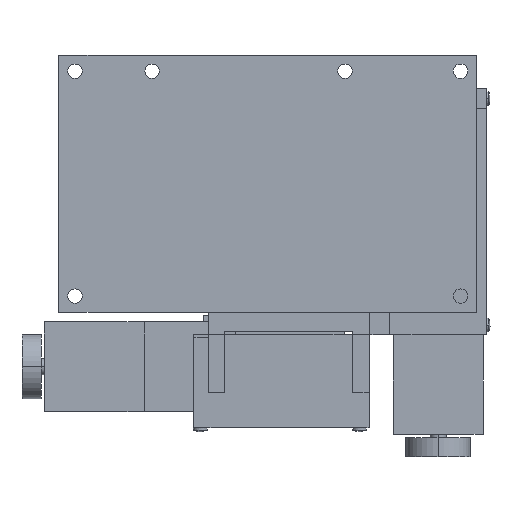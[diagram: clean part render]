
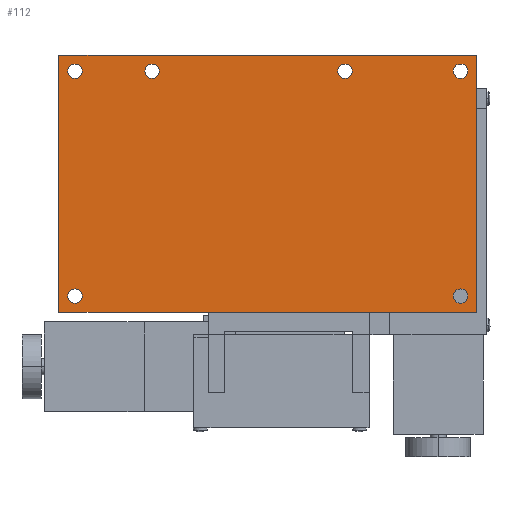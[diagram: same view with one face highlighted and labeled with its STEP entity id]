
A CAD part, front view. The second image highlights one B-rep face of the part: STEP entity #112.
In plain terms, the highlighted planar face has unit normal (0, -1, 0).
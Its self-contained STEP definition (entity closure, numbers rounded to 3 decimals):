
#55 = PLANE ( 'NONE',  #1490 ) ;
#61 = CARTESIAN_POINT ( 'NONE',  ( -60., 0., -22.5 ) ) ;
#112 = ADVANCED_FACE ( 'NONE', ( #1641, #2457, #8276, #3338, #1698, #9919, #760 ), #55, .F. ) ;
#238 = DIRECTION ( 'NONE',  ( 0., 0., 1. ) ) ;
#248 = DIRECTION ( 'NONE',  ( -1., 0., 0. ) ) ;
#299 = AXIS2_PLACEMENT_3D ( 'NONE', #6264, #9614, #1267 ) ;
#320 = VERTEX_POINT ( 'NONE', #7473 ) ;
#670 = EDGE_CURVE ( 'NONE', #7572, #10698, #5898, .T. ) ;
#704 = DIRECTION ( 'NONE',  ( 0., 0., 1. ) ) ;
#725 = EDGE_CURVE ( 'NONE', #2157, #5117, #4664, .T. ) ;
#760 = FACE_BOUND ( 'NONE', #6100, .T. ) ;
#812 = CARTESIAN_POINT ( 'NONE',  ( -60., 0., 45.25 ) ) ;
#870 = DIRECTION ( 'NONE',  ( 0., -1., 0. ) ) ;
#880 = DIRECTION ( 'NONE',  ( 0., 0., 1. ) ) ;
#1120 = CARTESIAN_POINT ( 'NONE',  ( 60., 0., -22.5 ) ) ;
#1133 = EDGE_CURVE ( 'NONE', #320, #3886, #8538, .T. ) ;
#1157 = CARTESIAN_POINT ( 'NONE',  ( -36., 0., 49.75 ) ) ;
#1171 = AXIS2_PLACEMENT_3D ( 'NONE', #61, #6750, #2521 ) ;
#1221 = DIRECTION ( 'NONE',  ( 0., 0., 1. ) ) ;
#1267 = DIRECTION ( 'NONE',  ( 0., 0., 1. ) ) ;
#1445 = CARTESIAN_POINT ( 'NONE',  ( -65., 0., 0. ) ) ;
#1490 = AXIS2_PLACEMENT_3D ( 'NONE', #2401, #4109, #880 ) ;
#1526 = CARTESIAN_POINT ( 'NONE',  ( 60., 0., -22.5 ) ) ;
#1590 = CARTESIAN_POINT ( 'NONE',  ( -60., 0., -24.75 ) ) ;
#1616 = AXIS2_PLACEMENT_3D ( 'NONE', #1120, #4365, #1221 ) ;
#1634 = DIRECTION ( 'NONE',  ( 0., -1., 0. ) ) ;
#1641 = FACE_OUTER_BOUND ( 'NONE', #5214, .T. ) ;
#1642 = CARTESIAN_POINT ( 'NONE',  ( 60., 0., 49.75 ) ) ;
#1698 = FACE_BOUND ( 'NONE', #2196, .T. ) ;
#1731 = EDGE_CURVE ( 'NONE', #8199, #6135, #4163, .T. ) ;
#2041 = ORIENTED_EDGE ( 'NONE', *, *, #4436, .F. ) ;
#2142 = CIRCLE ( 'NONE', #1616, 2.25 ) ;
#2157 = VERTEX_POINT ( 'NONE', #1590 ) ;
#2196 = EDGE_LOOP ( 'NONE', ( #4394, #2710 ) ) ;
#2298 = EDGE_LOOP ( 'NONE', ( #3931, #8927 ) ) ;
#2401 = CARTESIAN_POINT ( 'NONE',  ( 0., 0., 0. ) ) ;
#2457 = FACE_BOUND ( 'NONE', #2298, .T. ) ;
#2498 = AXIS2_PLACEMENT_3D ( 'NONE', #10074, #870, #5908 ) ;
#2516 = AXIS2_PLACEMENT_3D ( 'NONE', #3910, #3806, #7196 ) ;
#2521 = DIRECTION ( 'NONE',  ( 0., 0., 1. ) ) ;
#2650 = ORIENTED_EDGE ( 'NONE', *, *, #8169, .F. ) ;
#2710 = ORIENTED_EDGE ( 'NONE', *, *, #670, .F. ) ;
#2718 = CARTESIAN_POINT ( 'NONE',  ( 60., 0., -20.25 ) ) ;
#2756 = AXIS2_PLACEMENT_3D ( 'NONE', #10830, #10012, #4038 ) ;
#2764 = CARTESIAN_POINT ( 'NONE',  ( -60., 0., 47.5 ) ) ;
#3007 = EDGE_CURVE ( 'NONE', #3506, #5038, #3459, .T. ) ;
#3277 = DIRECTION ( 'NONE',  ( 0., 0., 1. ) ) ;
#3338 = FACE_BOUND ( 'NONE', #4160, .T. ) ;
#3459 = CIRCLE ( 'NONE', #2756, 2.25 ) ;
#3506 = VERTEX_POINT ( 'NONE', #1157 ) ;
#3566 = CARTESIAN_POINT ( 'NONE',  ( 65., 0., 52.5 ) ) ;
#3635 = ORIENTED_EDGE ( 'NONE', *, *, #725, .F. ) ;
#3806 = DIRECTION ( 'NONE',  ( 0., -1., 0. ) ) ;
#3846 = VECTOR ( 'NONE', #4793, 1000. ) ;
#3886 = VERTEX_POINT ( 'NONE', #5777 ) ;
#3895 = ORIENTED_EDGE ( 'NONE', *, *, #5825, .F. ) ;
#3910 = CARTESIAN_POINT ( 'NONE',  ( -60., 0., 47.5 ) ) ;
#3924 = DIRECTION ( 'NONE',  ( 0., -1., 0. ) ) ;
#3931 = ORIENTED_EDGE ( 'NONE', *, *, #3007, .F. ) ;
#4012 = DIRECTION ( 'NONE',  ( 0., -1., 0. ) ) ;
#4038 = DIRECTION ( 'NONE',  ( 0., 0., 1. ) ) ;
#4098 = VERTEX_POINT ( 'NONE', #2718 ) ;
#4109 = DIRECTION ( 'NONE',  ( 0., 1., 0. ) ) ;
#4115 = DIRECTION ( 'NONE',  ( 0., 0., 1. ) ) ;
#4160 = EDGE_LOOP ( 'NONE', ( #2650, #5200 ) ) ;
#4163 = CIRCLE ( 'NONE', #6081, 2.25 ) ;
#4291 = CARTESIAN_POINT ( 'NONE',  ( -60., 0., -20.25 ) ) ;
#4323 = LINE ( 'NONE', #8378, #6537 ) ;
#4358 = EDGE_LOOP ( 'NONE', ( #6676, #8271 ) ) ;
#4365 = DIRECTION ( 'NONE',  ( 0., -1., 0. ) ) ;
#4394 = ORIENTED_EDGE ( 'NONE', *, *, #4892, .F. ) ;
#4436 = EDGE_CURVE ( 'NONE', #9476, #5852, #5511, .T. ) ;
#4461 = AXIS2_PLACEMENT_3D ( 'NONE', #1526, #4869, #704 ) ;
#4567 = EDGE_CURVE ( 'NONE', #5038, #3506, #8766, .T. ) ;
#4582 = CARTESIAN_POINT ( 'NONE',  ( 65., 0., 0. ) ) ;
#4664 = CIRCLE ( 'NONE', #1171, 2.25 ) ;
#4738 = EDGE_CURVE ( 'NONE', #5764, #9476, #10231, .T. ) ;
#4755 = ORIENTED_EDGE ( 'NONE', *, *, #4738, .F. ) ;
#4770 = CARTESIAN_POINT ( 'NONE',  ( 60., 0., 47.5 ) ) ;
#4793 = DIRECTION ( 'NONE',  ( 0., 0., 1. ) ) ;
#4869 = DIRECTION ( 'NONE',  ( 0., -1., 0. ) ) ;
#4892 = EDGE_CURVE ( 'NONE', #10698, #7572, #5432, .T. ) ;
#5038 = VERTEX_POINT ( 'NONE', #10037 ) ;
#5095 = AXIS2_PLACEMENT_3D ( 'NONE', #6497, #8872, #7369 ) ;
#5117 = VERTEX_POINT ( 'NONE', #4291 ) ;
#5200 = ORIENTED_EDGE ( 'NONE', *, *, #1133, .F. ) ;
#5214 = EDGE_LOOP ( 'NONE', ( #5229, #6769, #2041, #4755 ) ) ;
#5229 = ORIENTED_EDGE ( 'NONE', *, *, #6230, .F. ) ;
#5432 = CIRCLE ( 'NONE', #8597, 2.25 ) ;
#5511 = LINE ( 'NONE', #1445, #3846 ) ;
#5609 = CIRCLE ( 'NONE', #5095, 2.25 ) ;
#5679 = EDGE_LOOP ( 'NONE', ( #3895, #3635 ) ) ;
#5764 = VERTEX_POINT ( 'NONE', #7113 ) ;
#5777 = CARTESIAN_POINT ( 'NONE',  ( 24., 0., 49.75 ) ) ;
#5825 = EDGE_CURVE ( 'NONE', #5117, #2157, #5609, .T. ) ;
#5852 = VERTEX_POINT ( 'NONE', #7164 ) ;
#5898 = CIRCLE ( 'NONE', #299, 2.25 ) ;
#5908 = DIRECTION ( 'NONE',  ( 0., 0., 1. ) ) ;
#5952 = CARTESIAN_POINT ( 'NONE',  ( 0., 0., -27.5 ) ) ;
#6081 = AXIS2_PLACEMENT_3D ( 'NONE', #2764, #9454, #238 ) ;
#6100 = EDGE_LOOP ( 'NONE', ( #7271, #7372 ) ) ;
#6135 = VERTEX_POINT ( 'NONE', #6220 ) ;
#6220 = CARTESIAN_POINT ( 'NONE',  ( -60., 0., 49.75 ) ) ;
#6230 = EDGE_CURVE ( 'NONE', #8509, #5764, #7047, .T. ) ;
#6264 = CARTESIAN_POINT ( 'NONE',  ( 60., 0., 47.5 ) ) ;
#6497 = CARTESIAN_POINT ( 'NONE',  ( -60., 0., -22.5 ) ) ;
#6537 = VECTOR ( 'NONE', #8495, 1000. ) ;
#6676 = ORIENTED_EDGE ( 'NONE', *, *, #10485, .F. ) ;
#6750 = DIRECTION ( 'NONE',  ( 0., -1., 0. ) ) ;
#6769 = ORIENTED_EDGE ( 'NONE', *, *, #9013, .F. ) ;
#6943 = CARTESIAN_POINT ( 'NONE',  ( 60., 0., -24.75 ) ) ;
#6996 = DIRECTION ( 'NONE',  ( 0., 0., -1. ) ) ;
#7047 = LINE ( 'NONE', #4582, #10360 ) ;
#7113 = CARTESIAN_POINT ( 'NONE',  ( 65., 0., -27.5 ) ) ;
#7164 = CARTESIAN_POINT ( 'NONE',  ( -65., 0., 52.5 ) ) ;
#7196 = DIRECTION ( 'NONE',  ( 0., 0., 1. ) ) ;
#7262 = DIRECTION ( 'NONE',  ( 0., 0., 1. ) ) ;
#7271 = ORIENTED_EDGE ( 'NONE', *, *, #10769, .F. ) ;
#7369 = DIRECTION ( 'NONE',  ( 0., 0., 1. ) ) ;
#7372 = ORIENTED_EDGE ( 'NONE', *, *, #7739, .F. ) ;
#7473 = CARTESIAN_POINT ( 'NONE',  ( 24., 0., 45.25 ) ) ;
#7536 = VECTOR ( 'NONE', #248, 1000. ) ;
#7572 = VERTEX_POINT ( 'NONE', #9890 ) ;
#7739 = EDGE_CURVE ( 'NONE', #8498, #4098, #2142, .T. ) ;
#7785 = CIRCLE ( 'NONE', #4461, 2.25 ) ;
#8169 = EDGE_CURVE ( 'NONE', #3886, #320, #9507, .T. ) ;
#8199 = VERTEX_POINT ( 'NONE', #812 ) ;
#8271 = ORIENTED_EDGE ( 'NONE', *, *, #1731, .F. ) ;
#8276 = FACE_BOUND ( 'NONE', #5679, .T. ) ;
#8378 = CARTESIAN_POINT ( 'NONE',  ( 0., 0., 52.5 ) ) ;
#8495 = DIRECTION ( 'NONE',  ( 1., 0., 0. ) ) ;
#8498 = VERTEX_POINT ( 'NONE', #6943 ) ;
#8509 = VERTEX_POINT ( 'NONE', #3566 ) ;
#8538 = CIRCLE ( 'NONE', #10101, 2.25 ) ;
#8597 = AXIS2_PLACEMENT_3D ( 'NONE', #4770, #4012, #4115 ) ;
#8766 = CIRCLE ( 'NONE', #10328, 2.25 ) ;
#8872 = DIRECTION ( 'NONE',  ( 0., -1., 0. ) ) ;
#8927 = ORIENTED_EDGE ( 'NONE', *, *, #4567, .F. ) ;
#9013 = EDGE_CURVE ( 'NONE', #5852, #8509, #4323, .T. ) ;
#9454 = DIRECTION ( 'NONE',  ( 0., -1., 0. ) ) ;
#9476 = VERTEX_POINT ( 'NONE', #10822 ) ;
#9507 = CIRCLE ( 'NONE', #2498, 2.25 ) ;
#9614 = DIRECTION ( 'NONE',  ( 0., -1., 0. ) ) ;
#9705 = CIRCLE ( 'NONE', #2516, 2.25 ) ;
#9734 = CARTESIAN_POINT ( 'NONE',  ( -36., 0., 47.5 ) ) ;
#9858 = CARTESIAN_POINT ( 'NONE',  ( 24., 0., 47.5 ) ) ;
#9890 = CARTESIAN_POINT ( 'NONE',  ( 60., 0., 45.25 ) ) ;
#9919 = FACE_BOUND ( 'NONE', #4358, .T. ) ;
#10012 = DIRECTION ( 'NONE',  ( 0., -1., 0. ) ) ;
#10037 = CARTESIAN_POINT ( 'NONE',  ( -36., 0., 45.25 ) ) ;
#10074 = CARTESIAN_POINT ( 'NONE',  ( 24., 0., 47.5 ) ) ;
#10101 = AXIS2_PLACEMENT_3D ( 'NONE', #9858, #1634, #3277 ) ;
#10231 = LINE ( 'NONE', #5952, #7536 ) ;
#10328 = AXIS2_PLACEMENT_3D ( 'NONE', #9734, #3924, #7262 ) ;
#10360 = VECTOR ( 'NONE', #6996, 1000. ) ;
#10485 = EDGE_CURVE ( 'NONE', #6135, #8199, #9705, .T. ) ;
#10698 = VERTEX_POINT ( 'NONE', #1642 ) ;
#10769 = EDGE_CURVE ( 'NONE', #4098, #8498, #7785, .T. ) ;
#10822 = CARTESIAN_POINT ( 'NONE',  ( -65., 0., -27.5 ) ) ;
#10830 = CARTESIAN_POINT ( 'NONE',  ( -36., 0., 47.5 ) ) ;
